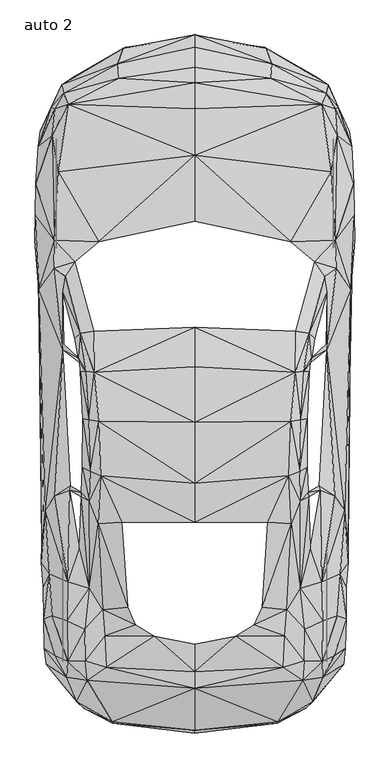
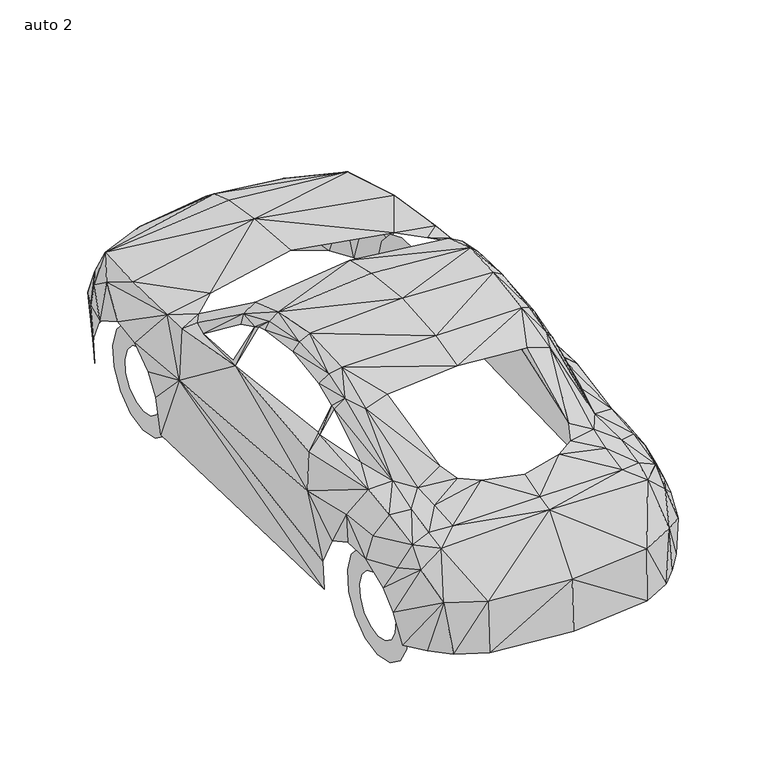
"""IFC4 building model written with IfcOpenShell, lengths in millimetres: proxy geometry, M_RPC maschio : auto 2."""

from ifc_helpers import new_model, si_unit, origin, place, context, project, spatial, triangles, source, transform, mapped, element, save


def auto_2_305272bd(model_context):
    return source(origin(), model_context, "Body", "Tessellation", [
        triangles([(0.0, 3251.7209953, 212.0954297), (-395.6116081, 3193.2902596, 211.6410788), (0.0, 3264.4431839, 456.9502333), (-408.0156475, 3189.6099609, 500.8869046), (0.0, 3192.6995979, 632.287932), (-439.9571571, 3101.2368668, 663.5024511), (-700.7600607, 3018.8613716, 209.2783959), (-761.0082001, 2979.4227905, 484.1664499), (-749.3765699, 2931.9422585, 638.7852825), (0.0, 3079.7910828, 759.1907965), (-433.6870093, 3018.497731, 758.463806), (-723.4325867, 2868.377243, 788.6333307), (-777.5015247, 2896.6839455, 210.641485), (-863.4210623, 2731.8419724, 222.1368044), (-882.7313662, 2714.9851524, 393.6124206), (-819.1663507, 2851.6114059, 499.2057572), (-894.8628204, 2627.9750565, 564.0884248), (-800.537546, 2843.7508392, 626.4720806), (-813.8503235, 2692.5850662, 738.4719303), (-908.0392691, 2414.9709068, 691.491077), (-778.8645956, 2484.5788673, 854.7427402), (-911.0834873, 2237.9520607, 666.3649218), (-801.173699, 2092.4658829, 891.727692), (-912.8554722, 2091.4663799, 571.5399322), (-891.1824492, 1812.2164192, 680.1321047), (-907.9937777, 2023.448584, 450.6346304), (-897.5889622, 1989.008099, 231.6329362), (-806.4442348, 1932.0311989, 903.1775745), (-684.1758986, 1970.651952, 932.1657761), (-548.5038746, 2083.9239624, 943.6610773), (0.0, 2991.3270058, 830.1164091), (0.0, 2841.9788544, 878.8693199), (0.0, 2577.7228912, 921.9881269), (0.0, 2201.0580917, 954.1568029), (-740.7437393, 1886.9586594, 945.0696396), (-755.1470026, 1796.3592476, 935.3463232), (-576.9468332, 1571.6325577, 1208.0988607), (-654.2335402, 1560.2281666, 1170.2506622), (-685.8570459, 1532.1486305, 1131.9026396), (-666.2286655, 1420.648605, 1177.1569267), (-572.8575843, 1339.5452705, 1289.7927841), (0.0, 1595.6682999, 1256.0337982), (-622.9281109, 1345.8155273, 1243.4935753), (-657.9138388, 1392.8417267, 1191.6510275), (-748.9222372, 1497.5264706, 948.9316858), (-754.2836832, 1468.6745979, 933.2108431), (-653.3702208, 1341.7717335, 1202.9645811), (-640.2846823, 1073.9262365, 1224.319455), (-605.3897919, 1068.3830429, 1275.7985802), (-547.5042626, 1059.7502123, 1314.1920216), (-642.8290764, 797.9931519, 1191.2875322), (-597.9382845, 774.3663963, 1248.3097057), (-537.3720323, 746.7413383, 1284.7494873), (-648.4631802, 654.5061253, 1141.7622122), (-601.2551242, 605.9350348, 1196.8761446), (-649.1446793, 628.7438896, 1134.5378712), (-550.5030622, 473.8524719, 1193.1504272), (-710.8013809, 689.7190922, 969.7868082), (-715.0724138, 666.5012506, 969.9685558), (-659.8675713, 336.2266791, 979.8282011), (-602.0275334, 105.7751025, 980.7369392), (-525.6495283, -17.9926711, 986.4618805), (-798.4474846, 634.3779934, 912.355648), (-854.3793177, 551.9115518, 734.7007215), (-863.6936474, 363.2611482, 231.8146657), (-725.8861433, 143.5324453, 948.2501141), (-830.4799044, 189.8317632, 799.6742992), (-874.4166121, 355.4915643, 417.5117612), (-876.870096, 253.8965846, 609.9334099), (-863.9208864, 115.5438467, 679.314204), (-863.4210623, -69.3808305, 687.7653597), (-813.4414095, -51.5244667, 803.6726744), (-729.4756044, -78.4226023, 924.1690258), (-627.0627422, -129.1746553, 951.4760799), (-512.9728675, -165.705238, 960.6087347), (-796.7209185, -278.840974, 734.0192225), (-726.3405487, -309.328539, 871.6449789), (-625.7451628, -308.3289634, 916.8992661), (-504.658077, -344.405177, 935.0736654), (-615.4311848, -418.602247, 879.3236526), (-858.3322014, -237.7213546, 605.8895797), (-849.3812943, -328.4571316, 500.9323234), (-729.8845184, -401.4274232, 773.321402), (-815.4406334, -367.0323206, 307.0113112), (-730.9295855, -472.443946, 304.2851513), (0.0, 481.9400597, 1266.3023575), (-417.193721, 483.8483734, 1232.3616966), (-384.0253967, -1.6811335, 1063.5668398), (-338.9074021, -101.6858535, 1031.0345959), (-232.178161, -167.5681149, 1021.7201935), (0.0, -213.1858973, 1005.6358555), (0.0, -370.8489481, 958.9730787), (0.0, -465.1287312, 934.3012562), (0.0, -705.8943403, 640.1937721), (-472.5802385, -654.8242018, 637.5584679), (-672.9986012, -542.6426044, 628.4713045), (-633.6964216, -579.309516, 313.4177879), (-469.4451465, -664.9564322, 318.3249012), (0.0, -720.6156075, 321.5508671), (0.0, 705.303606, 1320.6892994), (0.0, 1053.1619516, 1346.1790226), (0.0, 1370.5326233, 1313.0560444), (395.566153, 3193.2902596, 211.6410788), (407.9701924, 3189.6099609, 500.8869046), (439.9117384, 3101.2368668, 663.5024511), (700.7600607, 3018.8613716, 209.2783959), (761.0082001, 2979.4227905, 484.1664499), (749.3311512, 2931.9422585, 638.7852825), (433.6415543, 3018.497731, 758.463806), (723.4325867, 2868.377243, 788.6333307), (777.4560333, 2896.6839455, 210.641485), (863.3756435, 2731.8419724, 222.1368044), (882.7313662, 2714.9851524, 393.6124206), (819.1663507, 2851.6114059, 499.2057572), (894.817329, 2627.9750565, 564.0884248), (800.4921272, 2843.7508392, 626.4720806), (813.8503235, 2692.5850662, 738.4719303), (907.9937777, 2414.9709068, 691.491077), (778.8191769, 2484.5788673, 854.7427402), (911.0379959, 2237.9520607, 666.3649218), (801.173699, 2092.4658829, 891.727692), (912.8554722, 2091.4663799, 571.5399322), (891.1370304, 1812.2164192, 680.1321047), (907.9483589, 2023.448584, 450.6346304), (897.5889622, 1989.008099, 231.6329362), (806.3988161, 1932.0311989, 903.1775745), (684.1758986, 1970.651952, 932.1657761), (548.5038746, 2083.9239624, 943.6610773), (740.6983206, 1886.9586594, 945.0696396), (755.1015112, 1796.3592476, 935.3463232), (576.9468332, 1571.6325577, 1208.0988607), (654.2335402, 1560.2281666, 1170.2506622), (685.8570459, 1532.1486305, 1131.9026396), (666.1831741, 1420.648605, 1177.1569267), (572.8121292, 1339.5452705, 1289.7927841), (622.8826921, 1345.8155273, 1243.4935753), (657.9138388, 1392.8417267, 1191.6510275), (748.9222372, 1497.5264706, 948.9316858), (754.2836832, 1468.6745979, 933.2108431), (653.3702208, 1341.7717335, 1202.9645811), (640.2846823, 1073.9262365, 1224.319455), (605.3443368, 1068.3830429, 1275.7985802), (547.5042626, 1059.7502123, 1314.1920216), (642.8290764, 797.9931519, 1191.2875322), (597.8928294, 774.3663963, 1248.3097057), (537.3266135, 746.7413383, 1284.7494873), (648.4176888, 654.5061253, 1141.7622122), (601.2096691, 605.9350348, 1196.8761446), (649.0992605, 628.7438896, 1134.5378712), (550.4576071, 473.8524719, 1193.1504272), (710.7559622, 689.7190922, 969.7868082), (715.0724138, 666.5012506, 969.9685558), (659.8675713, 336.2266791, 979.8282011), (601.9820784, 105.7751025, 980.7369392), (525.6495283, -17.9926711, 986.4618805), (798.4474846, 634.3779934, 912.355648), (854.3338263, 551.9115518, 734.7007215), (863.6482286, 363.2611482, 231.8146657), (725.8407246, 143.5324453, 948.2501141), (830.4799044, 189.8317632, 799.6742992), (874.3711206, 355.4915643, 417.5117612), (876.870096, 253.8965846, 609.9334099), (863.875395, 115.5438467, 679.314204), (863.3756435, -69.3808305, 687.7653597), (813.4414095, -51.5244667, 803.6726744), (729.4301857, -78.4226023, 924.1690258), (627.0627422, -129.1746553, 951.4760799), (512.9728675, -165.705238, 960.6087347), (796.7209185, -278.840974, 734.0192225), (726.3405487, -309.328539, 871.6449789), (625.7451628, -308.3289634, 916.8992661), (504.658077, -344.405177, 935.0736654), (615.4311848, -418.602247, 879.3236526), (858.3322014, -237.7213546, 605.8895797), (849.3812943, -328.4571316, 500.9323234), (729.8390997, -401.4274232, 773.321402), (815.395142, -367.0323206, 307.0113112), (730.9295855, -472.443946, 304.2851513), (417.193721, 483.8483734, 1232.3616966), (383.979978, -1.6811335, 1063.5668398), (338.9074021, -101.6858535, 1031.0345959), (232.178161, -167.5681149, 1021.7201935), (472.5348198, -654.8242018, 637.5584679), (672.9986012, -542.6426044, 628.4713045), (633.6964216, -579.309516, 313.4177879), (469.3997277, -664.9564322, 318.3249012), (-790.5416445, 2358.5393223, 0.1817441), (-790.5416445, 2358.5393223, 118.8152404), (-790.5416445, 2486.2601601, 27.3070587), (-790.5416445, 2436.5985111, 135.4448303), (-790.5416445, 2591.8987701, 104.0939642), (-790.5416445, 2501.1630295, 182.3348189), (-790.5416445, 2657.2357704, 217.1842724), (-790.5416445, 2541.1012894, 251.488483), (-790.5416445, 2670.8666245, 347.0404813), (-790.5416445, 2549.4161888, 330.8652331), (-790.5416445, 2630.5193779, 471.2171677), (-790.5416445, 2524.789785, 406.7434141), (-790.5416445, 2543.145932, 568.2685475), (-790.5416445, 2471.357, 466.082888), (-790.5416445, 2423.8309765, 621.3832924), (-790.5416445, 2398.4322361, 498.5242218), (-790.5416445, 2293.2478134, 621.3832924), (-790.5416445, 2318.6465538, 498.5242218), (-790.5416445, 2173.9327126, 568.2685475), (-790.5416445, 2245.7216446, 466.082888), (-790.5416445, 2086.5592667, 471.2171677), (-790.5416445, 2192.2888596, 406.7434141), (-790.5416445, 2046.2120201, 347.0404813), (-790.5416445, 2167.6626011, 330.8652331), (-790.5416445, 2059.8428741, 217.1842724), (-790.5416445, 2175.9773552, 251.488483), (-790.5416445, 2125.1798744, 104.0939642), (-790.5416445, 2215.9156151, 182.3348189), (-790.5416445, 2230.8186298, 27.3070587), (-790.5416445, 2280.4802788, 135.4448303), (790.5416445, 2358.5393223, 0.1817441), (790.5416445, 2358.5393223, 118.8152404), (790.5416445, 2230.8186298, 27.3070587), (790.5416445, 2280.4802788, 135.4448303), (790.5416445, 2125.1798744, 104.0939642), (790.5416445, 2215.9156151, 182.3348189), (790.5416445, 2059.8428741, 217.1842724), (790.5416445, 2175.9773552, 251.488483), (790.5416445, 2046.2120201, 347.0404813), (790.5416445, 2167.6626011, 330.8652331), (790.5416445, 2086.5592667, 471.2171677), (790.5416445, 2192.2888596, 406.7434141), (790.5416445, 2173.9327126, 568.2685475), (790.5416445, 2245.7216446, 466.082888), (790.5416445, 2293.2478134, 621.3832924), (790.5416445, 2318.6465538, 498.5242218), (790.5416445, 2423.8309765, 621.3832924), (790.5416445, 2398.4322361, 498.5242218), (790.5416445, 2543.145932, 568.2685475), (790.5416445, 2471.357, 466.082888), (790.5416445, 2630.5193779, 471.2171677), (790.5416445, 2524.789785, 406.7434141), (790.5416445, 2670.8666245, 347.0404813), (790.5416445, 2549.4161888, 330.8652331), (790.5416445, 2657.2357704, 217.1842724), (790.5416445, 2541.1012894, 251.488483), (790.5416445, 2591.8987701, 104.0939642), (790.5416445, 2501.1630295, 182.3348189), (790.5416445, 2486.2601601, 27.3070587), (790.5416445, 2436.5985111, 135.4448303), (-753.0569412, 0.0, 0.1817441), (-753.0569412, 0.0, 118.8152404), (-753.0569412, 127.7207106, 27.3070587), (-753.0569412, 78.0591162, 135.4448303), (-753.0569412, 233.3595024, 104.0939642), (-753.0569412, 142.6237254, 182.3348189), (-753.0569412, 298.6965208, 217.1842724), (-753.0569412, 182.5620034, 251.488483), (-753.0569412, 312.3273385, 347.0404813), (-753.0569412, 190.8767939, 330.8652331), (-753.0569412, 271.9801283, 471.2171677), (-753.0569412, 166.2504627, 406.7434141), (-753.0569412, 184.6066279, 568.2685475), (-753.0569412, 112.8176868, 466.082888), (-753.0569412, 65.2915906, 621.3832924), (-753.0569412, 39.8928411, 498.5242218), (-753.0569412, -65.2915906, 621.3832924), (-753.0569412, -39.8928411, 498.5242218), (-753.0569412, -184.6066279, 568.2685475), (-753.0569412, -112.8176868, 466.082888), (-753.0569412, -271.9801283, 471.2171677), (-753.0569412, -166.2504627, 406.7434141), (-753.0569412, -312.3273385, 347.0404813), (-753.0569412, -190.8767939, 330.8652331), (-753.0569412, -298.6965208, 217.1842724), (-753.0569412, -182.5620034, 251.488483), (-753.0569412, -233.3595024, 104.0939642), (-753.0569412, -142.6237254, 182.3348189), (-753.0569412, -127.7207106, 27.3070587), (-753.0569412, -78.0591162, 135.4448303), (753.0569412, 0.0, 0.1817441), (753.0569412, 0.0, 118.8152404), (753.0569412, -127.7207106, 27.3070587), (753.0569412, -78.0591162, 135.4448303), (753.0569412, -233.3595024, 104.0939642), (753.0569412, -142.6237254, 182.3348189), (753.0569412, -298.6965208, 217.1842724), (753.0569412, -182.5620034, 251.488483), (753.0569412, -312.3273385, 347.0404813), (753.0569412, -190.8767939, 330.8652331), (753.0569412, -271.9801283, 471.2171677), (753.0569412, -166.2504627, 406.7434141), (753.0569412, -184.6066279, 568.2685475), (753.0569412, -112.8176868, 466.082888), (753.0569412, -65.2915906, 621.3832924), (753.0569412, -39.8928411, 498.5242218), (753.0569412, 65.2915906, 621.3832924), (753.0569412, 39.8928411, 498.5242218), (753.0569412, 184.6066279, 568.2685475), (753.0569412, 112.8176868, 466.082888), (753.0569412, 271.9801283, 471.2171677), (753.0569412, 166.2504627, 406.7434141), (753.0569412, 312.3273385, 347.0404813), (753.0569412, 190.8767939, 330.8652331), (753.0569412, 298.6965208, 217.1842724), (753.0569412, 182.5620034, 251.488483), (753.0569412, 233.3595024, 104.0939642), (753.0569412, 142.6237254, 182.3348189), (753.0569412, 127.7207106, 27.3070587), (753.0569412, 78.0591162, 135.4448303)], [[3, 1, 4], [2, 4, 1], [5, 3, 6], [4, 6, 3], [7, 8, 4], [4, 2, 7], [8, 9, 6], [6, 4, 8], [10, 5, 11], [6, 11, 5], [12, 11, 9], [6, 9, 11], [13, 14, 15], [13, 16, 8], [8, 7, 13], [17, 16, 15], [13, 15, 16], [16, 18, 9], [9, 8, 16], [9, 18, 12], [19, 12, 18], [19, 18, 17], [16, 17, 18], [20, 19, 17], [23, 19, 20], [22, 23, 20], [21, 19, 23], [22, 24, 25], [25, 28, 23], [24, 26, 25], [27, 25, 26], [25, 23, 22], [28, 29, 23], [29, 30, 23], [21, 23, 30], [11, 31, 10], [31, 11, 12], [12, 32, 31], [33, 32, 12], [12, 19, 21], [12, 21, 33], [34, 33, 30], [21, 30, 33], [35, 29, 28], [36, 35, 28], [38, 37, 35], [29, 35, 37], [39, 38, 36], [35, 36, 38], [40, 38, 39], [38, 43, 41], [41, 37, 38], [44, 43, 40], [40, 43, 38], [40, 45, 46], [46, 44, 40], [36, 46, 45], [44, 47, 43], [47, 48, 49], [49, 43, 47], [50, 41, 49], [43, 49, 41], [48, 51, 52], [52, 49, 48], [53, 50, 52], [49, 52, 50], [51, 54, 55], [55, 52, 51], [52, 55, 53], [54, 56, 55], [57, 53, 55], [54, 58, 59], [59, 56, 54], [61, 55, 56], [56, 60, 61], [62, 57, 61], [55, 61, 57], [28, 25, 46], [46, 36, 28], [58, 46, 63], [25, 64, 46], [63, 46, 64], [25, 65, 68], [65, 25, 27], [59, 58, 63], [59, 66, 60], [66, 59, 63], [60, 66, 61], [63, 64, 66], [67, 66, 64], [25, 68, 64], [68, 69, 64], [69, 67, 64], [69, 70, 67], [71, 72, 67], [67, 70, 71], [72, 73, 66], [66, 67, 72], [73, 74, 61], [61, 66, 73], [75, 62, 74], [61, 74, 62], [76, 72, 71], [72, 77, 73], [77, 72, 76], [73, 77, 74], [78, 74, 77], [78, 75, 74], [75, 78, 79], [80, 79, 78], [76, 71, 81], [77, 80, 78], [83, 77, 76], [81, 83, 76], [83, 81, 82], [84, 85, 96], [96, 82, 84], [62, 88, 57], [87, 57, 88], [75, 89, 62], [88, 62, 89], [90, 89, 75], [90, 79, 92], [90, 92, 91], [79, 90, 75], [79, 93, 92], [93, 79, 80], [95, 93, 80], [77, 83, 80], [96, 95, 80], [83, 96, 80], [85, 97, 96], [96, 83, 82], [97, 98, 95], [95, 96, 97], [95, 98, 94], [99, 94, 98], [57, 87, 53], [100, 53, 86], [87, 86, 53], [101, 50, 100], [53, 100, 50], [102, 41, 101], [50, 101, 41], [41, 42, 37], [102, 42, 41], [93, 95, 94], [3, 104, 1], [103, 1, 104], [5, 105, 3], [104, 3, 105], [106, 104, 107], [104, 106, 103], [107, 105, 108], [105, 107, 104], [10, 109, 5], [105, 5, 109], [110, 108, 109], [105, 109, 108], [111, 113, 112], [111, 107, 114], [107, 111, 106], [115, 113, 114], [111, 114, 113], [114, 108, 116], [108, 114, 107], [108, 110, 116], [117, 116, 110], [117, 115, 116], [114, 116, 115], [118, 115, 117], [121, 118, 117], [120, 118, 121], [119, 121, 117], [120, 123, 122], [123, 121, 126], [122, 123, 124], [125, 124, 123], [123, 120, 121], [126, 121, 127], [127, 121, 128], [119, 128, 121], [109, 10, 31], [31, 110, 109], [110, 31, 32], [33, 110, 32], [110, 119, 117], [110, 33, 119], [34, 128, 33], [119, 33, 128], [129, 126, 127], [130, 126, 129], [132, 129, 131], [127, 131, 129], [133, 130, 132], [129, 132, 130], [134, 133, 132], [132, 135, 136], [135, 132, 131], [137, 134, 136], [134, 132, 136], [134, 139, 138], [139, 134, 137], [130, 138, 139], [137, 136, 140], [140, 142, 141], [142, 140, 136], [143, 142, 135], [136, 135, 142], [141, 145, 144], [145, 141, 142], [146, 145, 143], [142, 143, 145], [144, 148, 147], [148, 144, 145], [145, 146, 148], [147, 148, 149], [150, 148, 146], [147, 152, 151], [152, 147, 149], [154, 149, 148], [149, 154, 153], [155, 154, 150], [148, 150, 154], [126, 139, 123], [139, 126, 130], [151, 156, 139], [123, 139, 157], [156, 157, 139], [123, 161, 158], [158, 125, 123], [152, 156, 151], [152, 153, 159], [159, 156, 152], [153, 154, 159], [156, 159, 157], [160, 157, 159], [123, 157, 161], [161, 157, 162], [162, 157, 160], [162, 160, 163], [164, 160, 165], [160, 164, 163], [165, 159, 166], [159, 165, 160], [166, 154, 167], [154, 166, 159], [168, 167, 155], [154, 155, 167], [169, 164, 165], [165, 166, 170], [170, 169, 165], [166, 167, 170], [171, 170, 167], [171, 167, 168], [168, 172, 171], [173, 171, 172], [169, 174, 164], [170, 171, 173], [176, 169, 170], [174, 169, 176], [176, 175, 174], [177, 184, 178], [184, 177, 175], [155, 150, 180], [179, 180, 150], [168, 155, 181], [180, 181, 155], [182, 168, 181], [182, 92, 172], [182, 91, 92], [172, 168, 182], [172, 92, 93], [93, 173, 172], [183, 173, 93], [170, 173, 176], [184, 173, 183], [176, 173, 184], [178, 184, 185], [184, 175, 176], [185, 183, 186], [183, 185, 184], [183, 94, 186], [99, 186, 94], [150, 146, 179], [100, 86, 146], [179, 146, 86], [101, 100, 143], [146, 143, 100], [102, 101, 135], [143, 135, 101], [135, 131, 42], [102, 135, 42], [93, 94, 183], [187, 190, 189], [187, 188, 190], [189, 192, 191], [189, 190, 192], [191, 194, 193], [191, 192, 194], [193, 196, 195], [193, 194, 196], [195, 198, 197], [195, 196, 198], [197, 200, 199], [197, 198, 200], [199, 202, 201], [199, 200, 202], [201, 204, 203], [201, 202, 204], [203, 206, 205], [203, 204, 206], [205, 208, 207], [205, 206, 208], [207, 210, 209], [207, 208, 210], [209, 212, 211], [209, 210, 212], [211, 214, 213], [211, 212, 214], [213, 216, 215], [213, 214, 216], [215, 188, 187], [215, 216, 188], [217, 220, 219], [217, 218, 220], [219, 222, 221], [219, 220, 222], [221, 224, 223], [221, 222, 224], [223, 226, 225], [223, 224, 226], [225, 228, 227], [225, 226, 228], [227, 230, 229], [227, 228, 230], [229, 232, 231], [229, 230, 232], [231, 234, 233], [231, 232, 234], [233, 236, 235], [233, 234, 236], [235, 238, 237], [235, 236, 238], [237, 240, 239], [237, 238, 240], [239, 242, 241], [239, 240, 242], [241, 244, 243], [241, 242, 244], [243, 246, 245], [243, 244, 246], [245, 218, 217], [245, 246, 218], [247, 250, 249], [247, 248, 250], [249, 252, 251], [249, 250, 252], [251, 254, 253], [251, 252, 254], [253, 256, 255], [253, 254, 256], [255, 258, 257], [255, 256, 258], [257, 260, 259], [257, 258, 260], [259, 262, 261], [259, 260, 262], [261, 264, 263], [261, 262, 264], [263, 266, 265], [263, 264, 266], [265, 268, 267], [265, 266, 268], [267, 270, 269], [267, 268, 270], [269, 272, 271], [269, 270, 272], [271, 274, 273], [271, 272, 274], [273, 276, 275], [273, 274, 276], [275, 248, 247], [275, 276, 248], [277, 280, 279], [277, 278, 280], [279, 282, 281], [279, 280, 282], [281, 284, 283], [281, 282, 284], [283, 286, 285], [283, 284, 286], [285, 288, 287], [285, 286, 288], [287, 290, 289], [287, 288, 290], [289, 292, 291], [289, 290, 292], [291, 294, 293], [291, 292, 294], [293, 296, 295], [293, 294, 296], [295, 298, 297], [295, 296, 298], [297, 300, 299], [297, 298, 300], [299, 302, 301], [299, 300, 302], [301, 304, 303], [301, 302, 304], [303, 306, 305], [303, 304, 306], [305, 278, 277], [305, 306, 278]], closed=False),
    ])


if __name__ == "__main__":
    model = new_model("IFC4")
    model_context = context("Model", 3, world=origin())
    ifc_project = project(units=[si_unit("LENGTHUNIT", "METRE", prefix="MILLI")], contexts=[model_context])
    site = spatial("IfcSite", under=ifc_project)
    building = spatial("IfcBuilding", under=site)
    placement = place(None, origin())
    auto_2_shape = auto_2_305272bd(model_context)
    element("IfcBuildingElementProxy", 1, Name="M_RPC maschio : auto 2", ObjectType="M_RPC maschio : auto 2", at=placement, inside=building, context=model_context, shape_type="MappedRepresentation", body=[
        mapped(auto_2_shape, transform((0.0, 0.0, 0.0), x_axis=(1.0, 0.0, 0.0), y_axis=(0.0, 1.0, 0.0), z_axis=(0.0, 0.0, 1.0))),
    ])
    save(model, "model.ifc")
